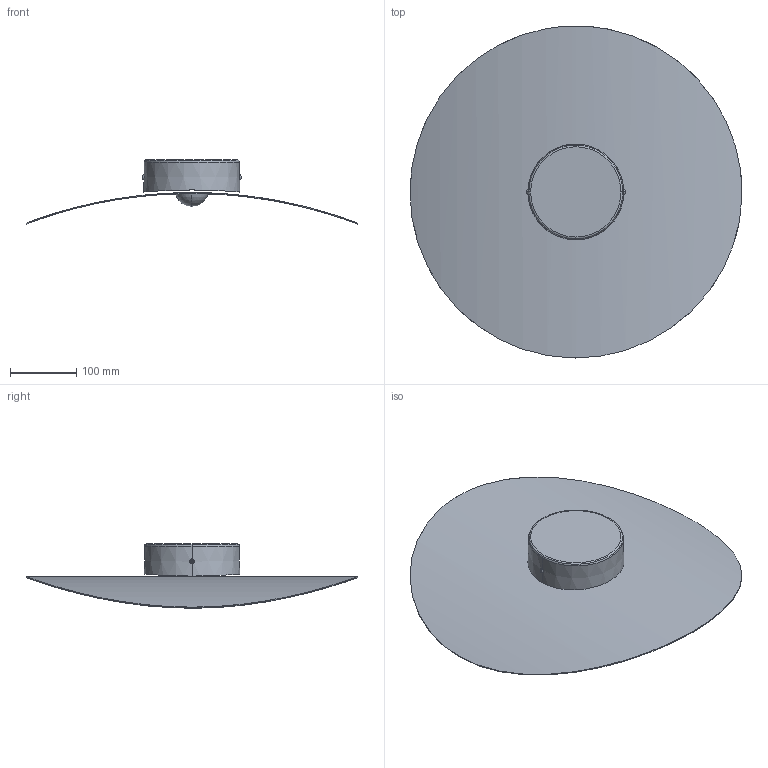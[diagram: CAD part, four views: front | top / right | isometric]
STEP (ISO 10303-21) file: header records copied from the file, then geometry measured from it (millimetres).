
FILE_DESCRIPTION((''),'2;1');
FILE_NAME('A000003645_00_ASSY_MA_SW0001','2025-05-14T11:21:57',('elena.baldelli'),(''),'CREO PARAMETRIC BY PTC INC, 2020354','CREO PARAMETRIC BY PTC INC, 2020354','');
FILE_SCHEMA(('CONFIG_CONTROL_DESIGN'));
Length unit declared in the file: millimetre
Products named in the file (1): A000003645_00_ASSY_MA_SW0001
Bounding box: 499.96 x 500 x 97.08 mm (x, y, z)
Surface area: 457407.5 mm2 (no closed solid volume)
Topology: 0 solids, 5 shells, 22 faces, 60 edges, 41 vertices
Faces by surface type: bspline 8, torus 4, cylinder 3, plane 3, sphere 2, cone 2
Entity records: 9371 total; most frequent: CARTESIAN_POINT 8830, ORIENTED_EDGE 102, DIRECTION 96, EDGE_CURVE 58, AXIS2_PLACEMENT_3D 44, VERTEX_POINT 41, CIRCLE 30, EDGE_LOOP 22
